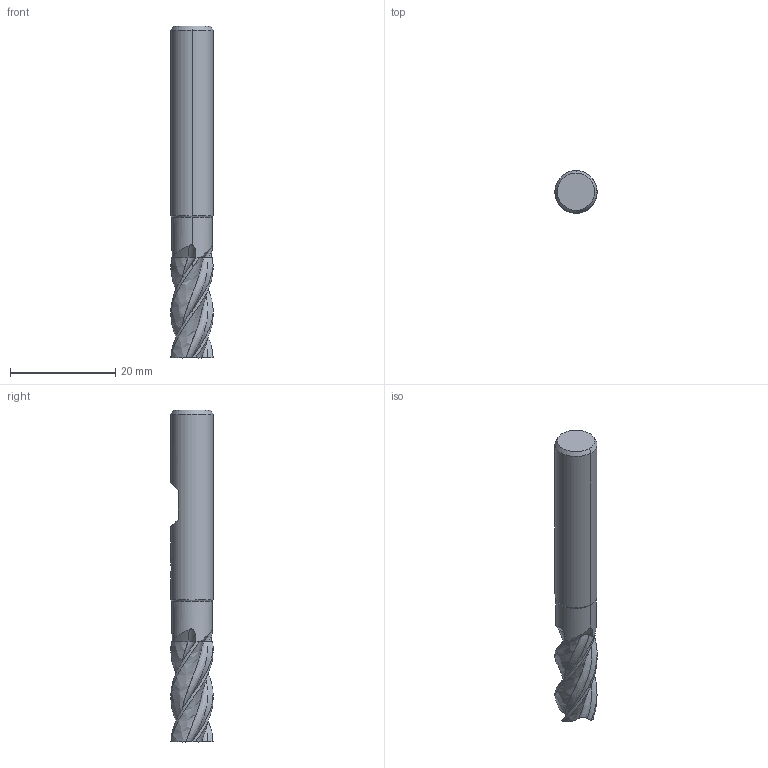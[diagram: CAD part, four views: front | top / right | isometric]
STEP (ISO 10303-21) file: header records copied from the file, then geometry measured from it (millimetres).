
FILE_DESCRIPTION(('no description'),'unknown implementation level');
FILE_NAME('solidVdIsBoojgVqegUK0oAktd_LwfZA_1.STP',' ',('CIMSOURCE GmbH'),('CADClick - KiM GmbH - www.kimweb.de'),'unknown preprocess','ACIS','unknown authorization');
FILE_SCHEMA(('automotive_design'));
Length unit declared in the file: millimetre
Products named in the file (2): NOCUT; CUT
Bounding box: 8 x 8 x 63 mm (x, y, z)
Volume: 2634.7 mm3; surface area: 2208 mm2
Topology: 2 solids, 2 shells, 125 faces, 350 edges, 228 vertices
Faces by surface type: bspline 48, plane 27, cone 22, cylinder 16, revolution 12
Entity records: 20850 total; most frequent: CARTESIAN_POINT 14171, STYLED_ITEM 705, PRESENTATION_STYLE_ASSIGNMENT 705, COLOUR_RGB 705, ORIENTED_EDGE 700, DIRECTION 380, EDGE_CURVE 350, CURVE_STYLE 350
